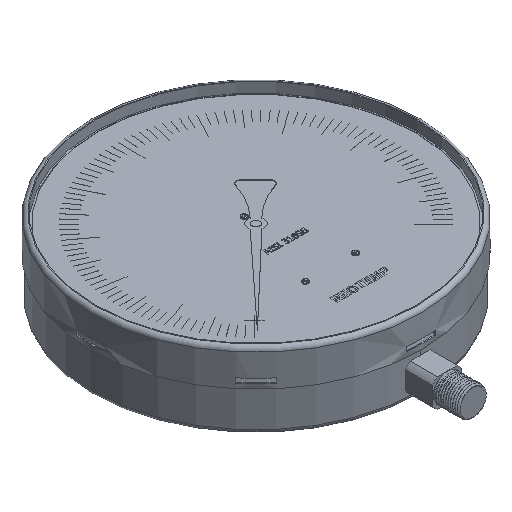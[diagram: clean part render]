
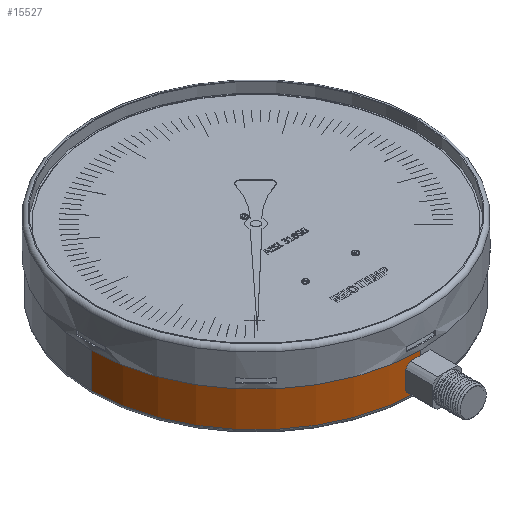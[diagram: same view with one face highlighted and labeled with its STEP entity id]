
A CAD part, isometric view. The second image highlights one B-rep face of the part: STEP entity #15527.
In plain terms, the highlighted cylindrical face has radius 124.46 mm (diameter 248.92 mm), a partial arc.
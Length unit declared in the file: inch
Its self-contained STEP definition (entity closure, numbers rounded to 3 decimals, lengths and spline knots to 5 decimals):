
#1131=FACE_OUTER_BOUND('',#2036,.T.);
#2036=EDGE_LOOP('',(#11109,#11110,#11111,#11112,#11113,#11114));
#3056=CIRCLE('',#16571,4.9);
#3062=CIRCLE('',#16579,4.9);
#3433=LINE('',#27350,#5328);
#3434=LINE('',#27352,#5329);
#3435=LINE('',#27354,#5330);
#3436=LINE('',#27358,#5331);
#5328=VECTOR('',#17533,4.9);
#5329=VECTOR('',#17534,0.3937);
#5330=VECTOR('',#17535,4.9);
#5331=VECTOR('',#17538,4.9);
#7240=VERTEX_POINT('',#27348);
#7241=VERTEX_POINT('',#27349);
#7242=VERTEX_POINT('',#27351);
#7243=VERTEX_POINT('',#27353);
#7244=VERTEX_POINT('',#27355);
#7245=VERTEX_POINT('',#27357);
#8768=EDGE_CURVE('',#7240,#7241,#3433,.T.);
#8769=EDGE_CURVE('',#7242,#7240,#3434,.T.);
#8770=EDGE_CURVE('',#7243,#7242,#3435,.T.);
#8772=EDGE_CURVE('',#7245,#7244,#3436,.T.);
#8775=EDGE_CURVE('',#7245,#7241,#3056,.T.);
#8781=EDGE_CURVE('',#7243,#7244,#3062,.T.);
#11109=ORIENTED_EDGE('',*,*,#8768,.T.);
#11110=ORIENTED_EDGE('',*,*,#8775,.F.);
#11111=ORIENTED_EDGE('',*,*,#8772,.T.);
#11112=ORIENTED_EDGE('',*,*,#8781,.F.);
#11113=ORIENTED_EDGE('',*,*,#8770,.T.);
#11114=ORIENTED_EDGE('',*,*,#8769,.T.);
#15477=CYLINDRICAL_SURFACE('',#16578,4.9);
#15527=ADVANCED_FACE('',(#1131),#15477,.T.);
#16571=AXIS2_PLACEMENT_3D('',#27363,#17545,#17546);
#16578=AXIS2_PLACEMENT_3D('',#27375,#17559,#17560);
#16579=AXIS2_PLACEMENT_3D('',#27376,#17561,#17562);
#17533=DIRECTION('',(0.,0.,1.));
#17534=DIRECTION('',(0.,0.,1.));
#17535=DIRECTION('',(0.,0.,1.));
#17538=DIRECTION('',(0.,0.,-1.));
#17545=DIRECTION('center_axis',(0.,0.,1.));
#17546=DIRECTION('ref_axis',(1.,0.,0.));
#17559=DIRECTION('center_axis',(0.,0.,1.));
#17560=DIRECTION('ref_axis',(0.,1.,0.));
#17561=DIRECTION('center_axis',(0.,0.,-1.));
#17562=DIRECTION('ref_axis',(-1.,0.,0.));
#27348=CARTESIAN_POINT('',(0.,-4.9,1.0334));
#27349=CARTESIAN_POINT('',(0.,-4.9,1.2));
#27350=CARTESIAN_POINT('',(0.,-4.9,0.));
#27351=CARTESIAN_POINT('',(0.,-4.9,0.1866));
#27352=CARTESIAN_POINT('',(0.,-4.9,0.));
#27353=CARTESIAN_POINT('',(0.,-4.9,0.125));
#27354=CARTESIAN_POINT('',(0.,-4.9,0.));
#27355=CARTESIAN_POINT('',(-4.9,0.,0.125));
#27357=CARTESIAN_POINT('',(-4.9,0.,1.2));
#27358=CARTESIAN_POINT('',(-4.9,0.,0.));
#27363=CARTESIAN_POINT('Origin',(0.,0.,1.2));
#27375=CARTESIAN_POINT('Origin',(0.,0.,0.));
#27376=CARTESIAN_POINT('Origin',(0.,0.,0.125));
